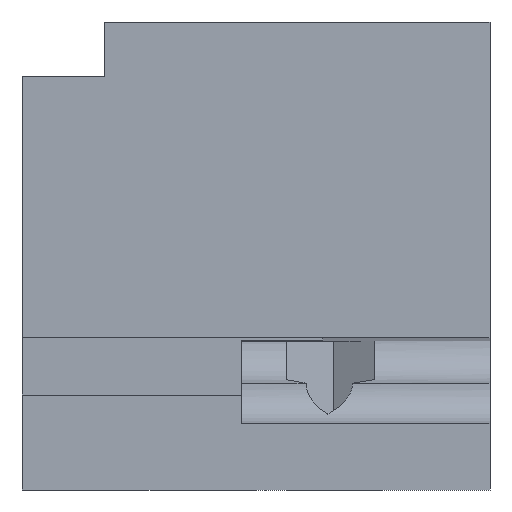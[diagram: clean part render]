
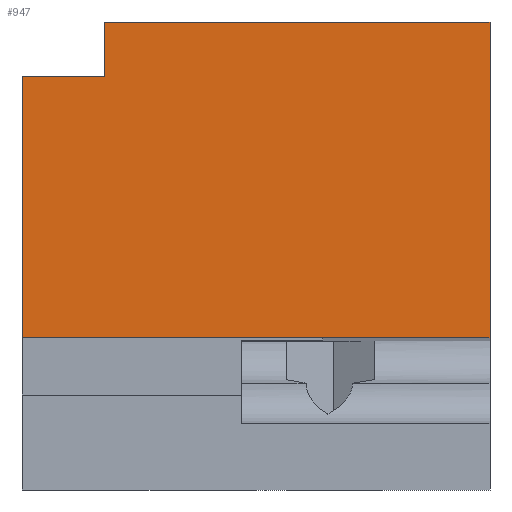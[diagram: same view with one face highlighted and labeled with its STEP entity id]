
A CAD part, left-side view. The second image highlights one B-rep face of the part: STEP entity #947.
In plain terms, the highlighted planar face has unit normal (-1, 0, 0).
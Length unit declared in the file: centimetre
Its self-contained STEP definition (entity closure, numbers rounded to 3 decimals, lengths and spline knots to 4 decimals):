
#8 = DIRECTION ( 'NONE',  ( 0., 1., 0. ) ) ;
#26 = AXIS2_PLACEMENT_3D ( 'NONE', #1022, #750, #1305 ) ;
#42 = EDGE_CURVE ( 'NONE', #690, #697, #594, .T. ) ;
#45 = VECTOR ( 'NONE', #8, 100. ) ;
#69 = ORIENTED_EDGE ( 'NONE', *, *, #1706, .F. ) ;
#78 = EDGE_LOOP ( 'NONE', ( #1228, #531, #1628, #69, #1244, #84, #1680 ) ) ;
#84 = ORIENTED_EDGE ( 'NONE', *, *, #1304, .F. ) ;
#122 = VERTEX_POINT ( 'NONE', #902 ) ;
#154 = DIRECTION ( 'NONE',  ( 0., 0., -1. ) ) ;
#158 = CARTESIAN_POINT ( 'NONE',  ( 0., 357.1535, 325.5669 ) ) ;
#171 = LINE ( 'NONE', #1277, #1358 ) ;
#224 = VERTEX_POINT ( 'NONE', #1397 ) ;
#314 = DIRECTION ( 'NONE',  ( 0., -1., 0. ) ) ;
#331 = CARTESIAN_POINT ( 'NONE',  ( 0., 1000., 325.5669 ) ) ;
#377 = CARTESIAN_POINT ( 'NONE',  ( 0., 823.6326, 1000. ) ) ;
#406 = CARTESIAN_POINT ( 'NONE',  ( 0., 0., 1000. ) ) ;
#450 = VECTOR ( 'NONE', #1560, 100. ) ;
#458 = CARTESIAN_POINT ( 'NONE',  ( 0., 823.6326, 884.5825 ) ) ;
#461 = CARTESIAN_POINT ( 'NONE',  ( 0., 531.0409, 325.5669 ) ) ;
#484 = VECTOR ( 'NONE', #687, 100. ) ;
#489 = VERTEX_POINT ( 'NONE', #377 ) ;
#531 = ORIENTED_EDGE ( 'NONE', *, *, #1056, .T. ) ;
#591 = VECTOR ( 'NONE', #1601, 100. ) ;
#594 = LINE ( 'NONE', #461, #484 ) ;
#661 = VERTEX_POINT ( 'NONE', #331 ) ;
#687 = DIRECTION ( 'NONE',  ( 0., -1., 0. ) ) ;
#690 = VERTEX_POINT ( 'NONE', #1100 ) ;
#697 = VERTEX_POINT ( 'NONE', #1501 ) ;
#718 = LINE ( 'NONE', #1136, #450 ) ;
#750 = DIRECTION ( 'NONE',  ( 1., 0., 0. ) ) ;
#840 = EDGE_CURVE ( 'NONE', #489, #224, #718, .T. ) ;
#897 = EDGE_CURVE ( 'NONE', #489, #1663, #171, .T. ) ;
#902 = CARTESIAN_POINT ( 'NONE',  ( 0., 1000., 884.5825 ) ) ;
#944 = CARTESIAN_POINT ( 'NONE',  ( 0., 1000., 1000. ) ) ;
#947 = ADVANCED_FACE ( 'NONE', ( #978 ), #1569, .F. ) ;
#978 = FACE_OUTER_BOUND ( 'NONE', #78, .T. ) ;
#985 = CARTESIAN_POINT ( 'NONE',  ( 0., 0., 1000. ) ) ;
#1022 = CARTESIAN_POINT ( 'NONE',  ( 0., 1000., 1000. ) ) ;
#1056 = EDGE_CURVE ( 'NONE', #224, #122, #1429, .T. ) ;
#1100 = CARTESIAN_POINT ( 'NONE',  ( 0., 357.1535, 325.5669 ) ) ;
#1136 = CARTESIAN_POINT ( 'NONE',  ( 0., 823.6326, 884.5825 ) ) ;
#1204 = VECTOR ( 'NONE', #154, 100. ) ;
#1228 = ORIENTED_EDGE ( 'NONE', *, *, #840, .T. ) ;
#1244 = ORIENTED_EDGE ( 'NONE', *, *, #42, .T. ) ;
#1250 = LINE ( 'NONE', #158, #45 ) ;
#1277 = CARTESIAN_POINT ( 'NONE',  ( 0., 1000., 1000. ) ) ;
#1294 = DIRECTION ( 'NONE',  ( 0., 1., 0. ) ) ;
#1304 = EDGE_CURVE ( 'NONE', #1663, #697, #1536, .T. ) ;
#1305 = DIRECTION ( 'NONE',  ( 0., 0., -1. ) ) ;
#1358 = VECTOR ( 'NONE', #314, 100. ) ;
#1397 = CARTESIAN_POINT ( 'NONE',  ( 0., 823.6326, 884.5825 ) ) ;
#1429 = LINE ( 'NONE', #458, #1696 ) ;
#1465 = LINE ( 'NONE', #944, #591 ) ;
#1495 = EDGE_CURVE ( 'NONE', #122, #661, #1465, .T. ) ;
#1501 = CARTESIAN_POINT ( 'NONE',  ( 0., 0., 325.5669 ) ) ;
#1536 = LINE ( 'NONE', #985, #1204 ) ;
#1560 = DIRECTION ( 'NONE',  ( 0., 0., -1. ) ) ;
#1569 = PLANE ( 'NONE',  #26 ) ;
#1601 = DIRECTION ( 'NONE',  ( 0., 0., -1. ) ) ;
#1628 = ORIENTED_EDGE ( 'NONE', *, *, #1495, .T. ) ;
#1663 = VERTEX_POINT ( 'NONE', #406 ) ;
#1680 = ORIENTED_EDGE ( 'NONE', *, *, #897, .F. ) ;
#1696 = VECTOR ( 'NONE', #1294, 100. ) ;
#1706 = EDGE_CURVE ( 'NONE', #690, #661, #1250, .T. ) ;
